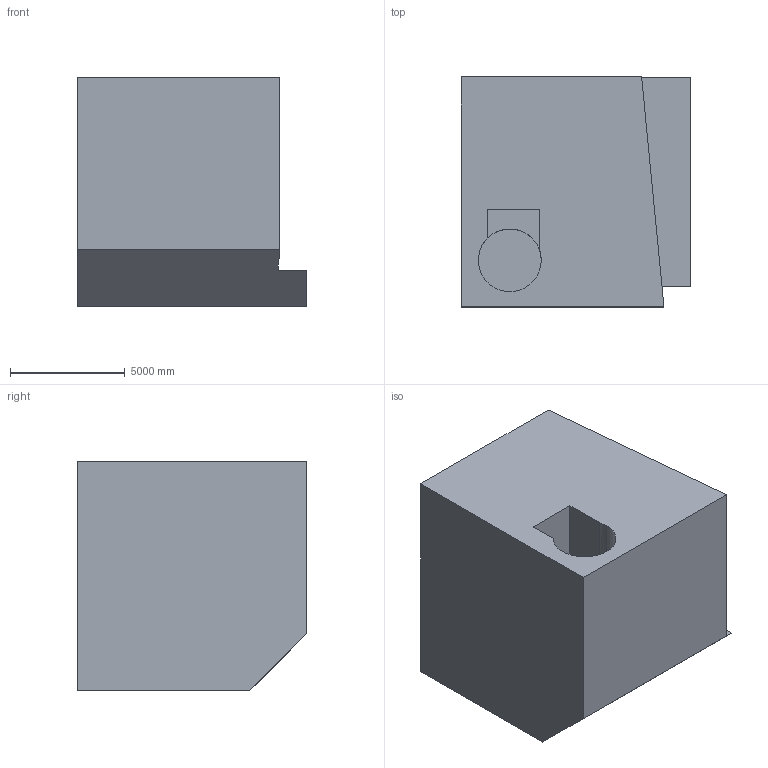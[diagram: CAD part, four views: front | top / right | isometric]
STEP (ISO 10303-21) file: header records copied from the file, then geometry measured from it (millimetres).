
FILE_DESCRIPTION (( 'STEP AP203' ), '1' );
FILE_NAME ('468.STEP', '2022-07-29T11:24:09', ( 'user' ), ( '' ), 'SwSTEP 2.0', 'SolidWorks 2021', '' );
FILE_SCHEMA (( 'CONFIG_CONTROL_DESIGN' ));
Length unit declared in the file: centimetre
Products named in the file (1): 468
Bounding box: 10000 x 10000 x 10000 mm (x, y, z)
Volume: 777074927752.5 mm3; surface area: 634031254.7 mm2
Topology: 1 solids, 1 shells, 22 faces, 51 edges, 34 vertices
Faces by surface type: plane 16, cylinder 6
Entity records: 706 total; most frequent: DIRECTION 111, CARTESIAN_POINT 108, ORIENTED_EDGE 102, EDGE_CURVE 51, AXIS2_PLACEMENT_3D 37, LINE 37, VECTOR 37, VERTEX_POINT 34
